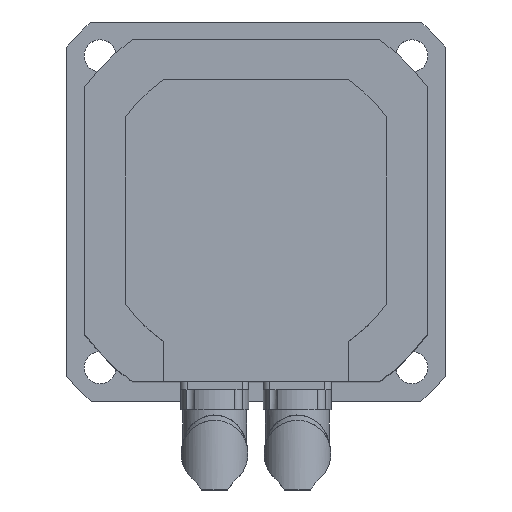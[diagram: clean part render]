
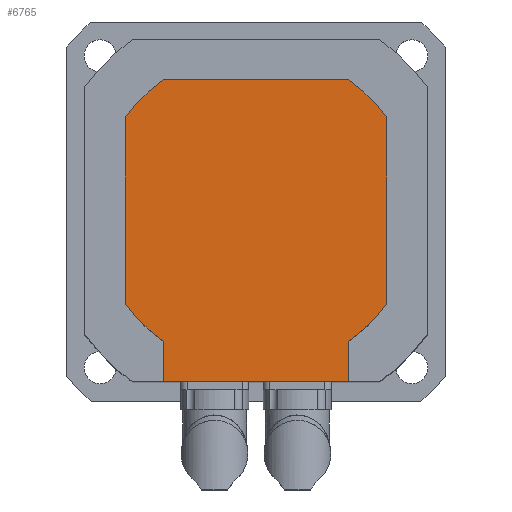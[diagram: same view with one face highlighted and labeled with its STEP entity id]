
A CAD part, top view. The second image highlights one B-rep face of the part: STEP entity #6765.
In plain terms, the highlighted planar face has unit normal (0, 0, 1).
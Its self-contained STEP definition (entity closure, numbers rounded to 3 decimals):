
#3962=CARTESIAN_POINT('',(-49.,-34.627,45.0));
#3963=VERTEX_POINT('',#3962);
#3970=CARTESIAN_POINT('',(-49.,34.627,45.0));
#3971=VERTEX_POINT('',#3970);
#3972=CARTESIAN_POINT('',(-49.,34.627,45.0));
#3973=DIRECTION('',(0.0,-1.0,0.0));
#3974=VECTOR('',#3973,69.253);
#3975=LINE('',#3972,#3974);
#3976=EDGE_CURVE('',#3971,#3963,#3975,.T.);
#4020=CARTESIAN_POINT('',(49.0,34.627,45.0));
#4021=VERTEX_POINT('',#4020);
#4028=CARTESIAN_POINT('',(49.0,-34.627,45.0));
#4029=VERTEX_POINT('',#4028);
#4030=CARTESIAN_POINT('',(49.0,-34.627,45.0));
#4031=DIRECTION('',(0.0,1.0,0.0));
#4032=VECTOR('',#4031,69.253);
#4033=LINE('',#4030,#4032);
#4034=EDGE_CURVE('',#4029,#4021,#4033,.T.);
#6490=CARTESIAN_POINT('',(-34.627,49.0,45.0));
#6491=VERTEX_POINT('',#6490);
#6498=CARTESIAN_POINT('',(34.627,49.0,45.0));
#6499=VERTEX_POINT('',#6498);
#6500=CARTESIAN_POINT('',(34.627,49.0,45.0));
#6501=DIRECTION('',(-1.0,0.0,0.0));
#6502=VECTOR('',#6501,69.253);
#6503=LINE('',#6500,#6502);
#6504=EDGE_CURVE('',#6499,#6491,#6503,.T.);
#6522=CARTESIAN_POINT('',(34.627,-49.0,45.0));
#6523=VERTEX_POINT('',#6522);
#6524=CARTESIAN_POINT('',(0.0,0.0,45.0));
#6525=DIRECTION('',(0.0,0.0,-1.0));
#6526=DIRECTION('',(-1.0,0.0,0.0));
#6527=AXIS2_PLACEMENT_3D('',#6524,#6525,#6526);
#6528=CIRCLE('',#6527,60.0);
#6529=EDGE_CURVE('',#4029,#6523,#6528,.T.);
#6547=CARTESIAN_POINT('',(0.0,0.0,45.0));
#6548=DIRECTION('',(0.0,0.0,-1.0));
#6549=DIRECTION('',(-1.0,0.0,0.0));
#6550=AXIS2_PLACEMENT_3D('',#6547,#6548,#6549);
#6551=CIRCLE('',#6550,60.0);
#6552=EDGE_CURVE('',#6499,#4021,#6551,.T.);
#6565=CARTESIAN_POINT('',(0.0,0.0,45.0));
#6566=DIRECTION('',(0.0,0.0,-1.0));
#6567=DIRECTION('',(-1.0,0.0,0.0));
#6568=AXIS2_PLACEMENT_3D('',#6565,#6566,#6567);
#6569=CIRCLE('',#6568,60.0);
#6570=EDGE_CURVE('',#3971,#6491,#6569,.T.);
#6584=CARTESIAN_POINT('',(-34.627,-49.0,45.0));
#6585=VERTEX_POINT('',#6584);
#6592=CARTESIAN_POINT('',(0.0,0.0,45.0));
#6593=DIRECTION('',(0.0,0.0,-1.0));
#6594=DIRECTION('',(-1.0,0.0,0.0));
#6595=AXIS2_PLACEMENT_3D('',#6592,#6593,#6594);
#6596=CIRCLE('',#6595,60.0);
#6597=EDGE_CURVE('',#6585,#3963,#6596,.T.);
#6642=CARTESIAN_POINT('',(34.627,-64.0,45.0));
#6643=VERTEX_POINT('',#6642);
#6644=CARTESIAN_POINT('',(34.627,-49.0,45.0));
#6645=DIRECTION('',(0.0,-1.0,0.0));
#6646=VECTOR('',#6645,15.0);
#6647=LINE('',#6644,#6646);
#6648=EDGE_CURVE('',#6523,#6643,#6647,.T.);
#6664=CARTESIAN_POINT('',(-34.627,-64.0,45.0));
#6665=VERTEX_POINT('',#6664);
#6672=CARTESIAN_POINT('',(-34.627,-49.0,45.0));
#6673=DIRECTION('',(0.0,-1.0,0.0));
#6674=VECTOR('',#6673,15.0);
#6675=LINE('',#6672,#6674);
#6676=EDGE_CURVE('',#6585,#6665,#6675,.T.);
#6696=CARTESIAN_POINT('',(34.627,-64.0,45.0));
#6697=DIRECTION('',(-1.0,0.0,0.0));
#6698=VECTOR('',#6697,69.253);
#6699=LINE('',#6696,#6698);
#6700=EDGE_CURVE('',#6643,#6665,#6699,.T.);
#6748=CARTESIAN_POINT('',(49.,-64.,45.0));
#6749=DIRECTION('',(0.0,0.0,-1.0));
#6750=DIRECTION('',(-1.0,0.0,0.0));
#6751=AXIS2_PLACEMENT_3D('',#6748,#6749,#6750);
#6752=PLANE('',#6751);
#6753=ORIENTED_EDGE('',*,*,#3976,.T.);
#6754=ORIENTED_EDGE('',*,*,#6597,.F.);
#6755=ORIENTED_EDGE('',*,*,#6676,.T.);
#6756=ORIENTED_EDGE('',*,*,#6700,.F.);
#6757=ORIENTED_EDGE('',*,*,#6648,.F.);
#6758=ORIENTED_EDGE('',*,*,#6529,.F.);
#6759=ORIENTED_EDGE('',*,*,#4034,.T.);
#6760=ORIENTED_EDGE('',*,*,#6552,.F.);
#6761=ORIENTED_EDGE('',*,*,#6504,.T.);
#6762=ORIENTED_EDGE('',*,*,#6570,.F.);
#6763=EDGE_LOOP('',(#6753,#6754,#6755,#6756,#6757,#6758,#6759,#6760,#6761,#6762));
#6764=FACE_OUTER_BOUND('',#6763,.T.);
#6765=ADVANCED_FACE('',(#6764),#6752,.F.);
